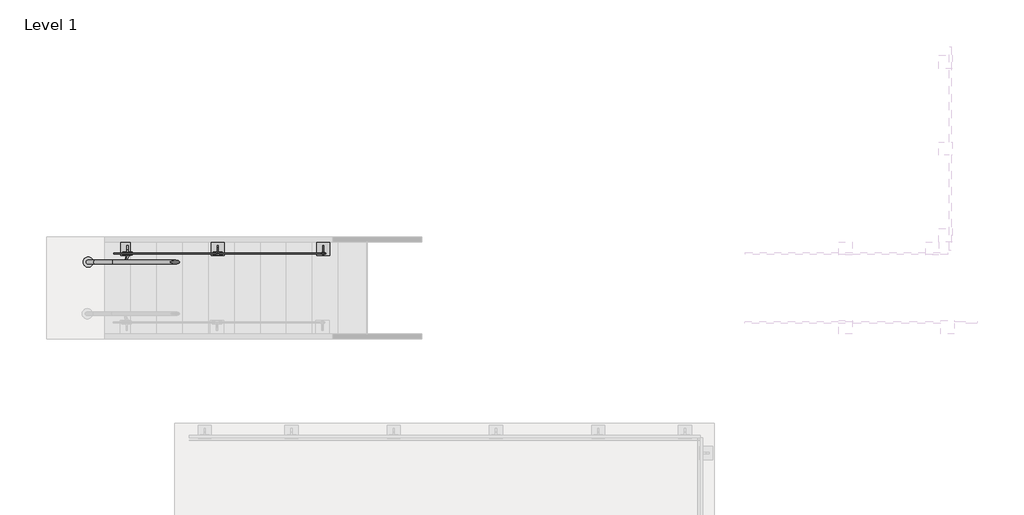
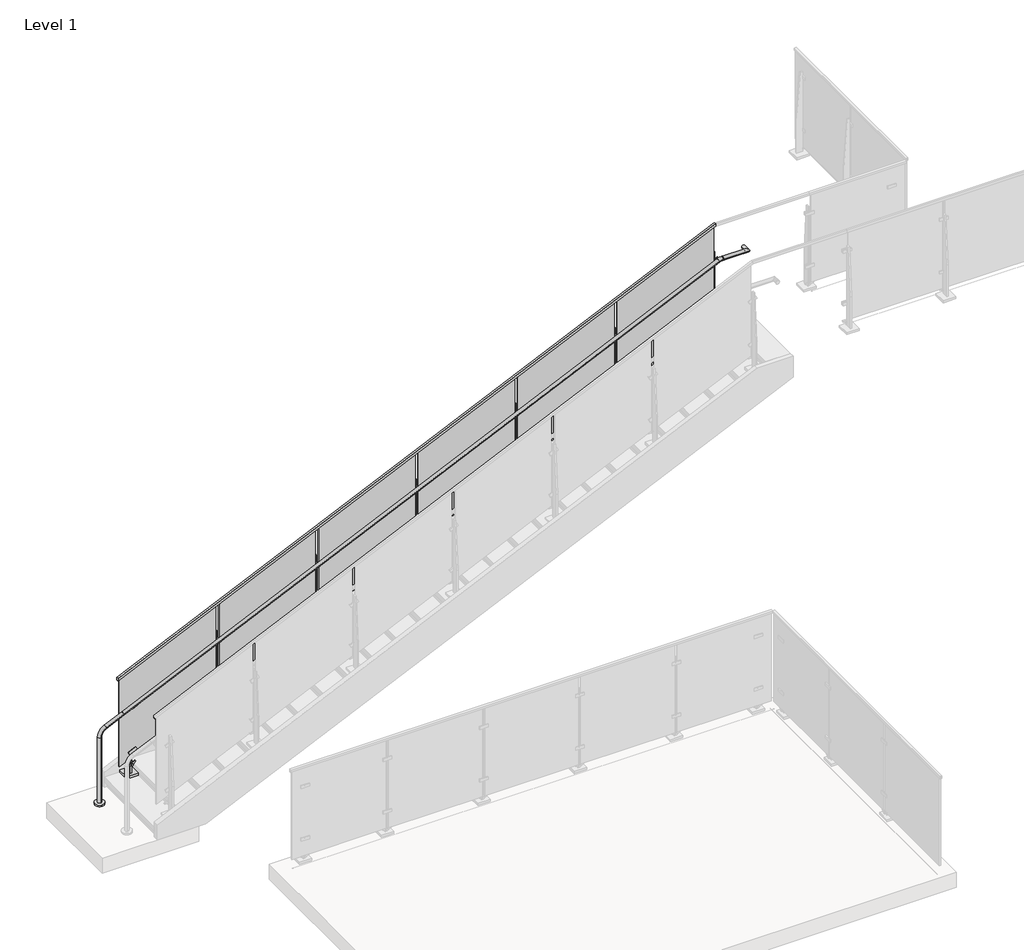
# One storey, part 11 of 37: 1 railing.
"""IFC4 building model written with IfcOpenShell, lengths in millimetres."""

from ifc_helpers import new_model, si_unit, point, frame, frame_2d, origin, place, context, project, spatial, polyline, circle_curve, ellipse_curve, trimmed, segment, composite_curve, outline, extrude, faceted_brep, element, save
from ifc_brep_helpers import plane_surface, cylinder_surface, revolved_surface, advanced_brep

model = new_model("IFC4")

# Units and contexts
model_context = context("Model", 3, world=origin())
ifc_project = project(units=[si_unit("LENGTHUNIT", "METRE", prefix="MILLI")], contexts=[model_context])

# Site, building, storey
site = spatial("IfcSite", under=ifc_project)
building = spatial("IfcBuilding", under=site)
storey = spatial("IfcBuildingStorey", under=building, Name="Level 1", Elevation=0.0)

# Railing
placement = place(None, origin())
element("IfcRailing", 1, ObjectType="VIVA-SOLO-Glass-Floor Mount-Stair_Left", at=placement, inside=storey, context=model_context, shape_type="SolidModel", body=[
    advanced_brep(
    [(-7324.9933273, 4134.4215519, 3782.4684417), (-7324.9933273, 4172.5215519, 3782.4684417), (-7051.9433273, 4134.4215519, 3782.4684417), (-7090.0433273, 4172.5215519, 3782.4684417), (-7051.9433273, 4216.9715519, 3782.4684417), (-7090.0433273, 4216.9715519, 3782.4684417)],
    [
        (0, 1, circle_curve(frame((-7324.9933273, 4153.4715519, 3782.4684417), z_axis=(-1.0, 0.0, 0.0), x_axis=(0.0, 1.0, 0.0)), 19.05)),
        (1, 0, circle_curve(frame((-7324.9933273, 4153.4715519, 3782.4684417), z_axis=(-1.0, 0.0, 0.0), x_axis=(0.0, 1.0, 0.0)), 19.05)),
        (0, 2),
        (2, 3, ellipse_curve(frame((-7070.9933273, 4153.4715519, 3782.4684417), z_axis=(-0.7071067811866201, -0.7071067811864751, 0.0), x_axis=(-0.7071067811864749, 0.7071067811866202, 0.0)), 26.9407684, 19.05)),
        (3, 1),
        (3, 2, ellipse_curve(frame((-7070.9933273, 4153.4715519, 3782.4684417), z_axis=(-0.7071067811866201, -0.7071067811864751, 0.0), x_axis=(-0.7071067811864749, 0.7071067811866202, 0.0)), 26.9407684, 19.05)),
        (4, 5, circle_curve(frame((-7070.9933273, 4216.9715519, 3782.4684417), z_axis=(0.0, 1.0, 0.0), x_axis=(-1.0, 0.0, 0.0)), 19.05)),
        (5, 4, circle_curve(frame((-7070.9933273, 4216.9715519, 3782.4684417), z_axis=(0.0, 1.0, 0.0), x_axis=(-1.0, 0.0, 0.0)), 19.05)),
        (2, 4),
        (5, 3),
    ],
    [
        plane_surface(frame((-7324.9933273, 4153.4715519, 3782.4684417), z_axis=(-1.0, 0.0, 0.0), x_axis=(0.0, 0.0, 1.0))),
        cylinder_surface(frame((-7324.9933273, 4153.4715519, 3782.4684417), z_axis=(-1.0, 0.0, 0.0), x_axis=(0.0, 1.0, 0.0)), 19.05),
        plane_surface(frame((-7070.9933273, 4216.9715519, 3782.4684417), z_axis=(0.0, 1.0, 0.0), x_axis=(0.0, 0.0, 1.0))),
        cylinder_surface(frame((-7070.9933273, 4153.4715519, 3782.4684417), z_axis=(0.0, -1.0, 0.0), x_axis=(-1.0, 0.0, 0.0)), 19.05),
    ],
    [
        (0, [[1, 2]]),
        (1, [[-1, 3, 4, 5]]),
        (1, [[-2, -5, 6, -3]]),
        (2, [[7, 8]]),
        (3, [[-4, 9, -8, 10]]),
        (3, [[-6, -10, -7, -9]]),
    ],
),
    extrude(outline(composite_curve([segment(trimmed(circle_curve(frame_2d((-13893.7175242, 4153.4715519)), 50.8), [point((-13893.7175242, 4204.2715519))], [point((-13893.7175242, 4102.6715519))], False, "CARTESIAN"), True, "CONTINUOUS"), segment(trimmed(circle_curve(frame_2d((-13893.7175242, 4153.4715519)), 50.8), [point((-13893.7175242, 4102.6715519))], [point((-13893.7175242, 4204.2715519))], False, "CARTESIAN"), True, "CONTINUOUS")], self_intersect=False)), frame((0.0, 0.0, -1.27), z_axis=(0.0, 0.0, 1.0), x_axis=(1.0, 0.0, 0.0)), (0.0, 0.0, 1.0), 19.05),
    advanced_brep(
    [(-13893.7175242, 4134.4215519, 17.78), (-13893.7175242, 4172.5215519, 17.78), (-13893.7175242, 4134.4215519, 742.2540055), (-13893.7175242, 4172.5215519, 742.2540055), (-13834.1731053, 4172.5215519, 834.7412376), (-13834.1731053, 4134.4215519, 834.7412376), (-13647.0721028, 4134.4215519, 919.8193744), (-13647.0721028, 4172.5215519, 919.8193744), (-7371.6701911, 4134.4215519, 3773.3556738), (-7371.6701911, 4172.5215519, 3773.3556738), (-7324.9933273, 4134.4215519, 3782.4684417), (-7324.9933273, 4172.5215519, 3782.4684417), (-7329.61461, 4172.5215519, 3782.4684417), (-7329.61461, 4134.4215519, 3782.4684417)],
    [
        (0, 1, circle_curve(frame((-13893.7175242, 4153.4715519, 17.78), z_axis=(0.0, 0.0, -1.0), x_axis=(0.0, 1.0, 0.0)), 19.05)),
        (1, 0, circle_curve(frame((-13893.7175242, 4153.4715519, 17.78), z_axis=(0.0, 0.0, -1.0), x_axis=(0.0, 1.0, 0.0)), 19.05)),
        (0, 2),
        (2, 3, circle_curve(frame((-13893.7175242, 4153.4715519, 742.2540055), z_axis=(0.0, 0.0, -1.0), x_axis=(0.0, 1.0, 0.0)), 19.05)),
        (3, 1),
        (3, 2, circle_curve(frame((-13893.7175242, 4153.4715519, 742.2540055), z_axis=(0.0, 0.0, -1.0), x_axis=(0.0, 1.0, 0.0)), 19.05)),
        (4, 3, circle_curve(frame((-13792.1175242, 4172.5215519, 742.2540055), z_axis=(0.0, -1.0, 0.0), x_axis=(-1.0, 0.0, 0.0)), 101.6)),
        (2, 5, circle_curve(frame((-13792.1175242, 4134.4215519, 742.2540055), z_axis=(0.0, 1.0, 0.0), x_axis=(-1.0, 0.0, 0.0)), 101.6)),
        (5, 4, circle_curve(frame((-13834.1731053, 4153.4715519, 834.7412376), z_axis=(-0.9103074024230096, 0.0, -0.4139328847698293), x_axis=(0.0, 1.0, 0.0)), 19.05)),
        (4, 5, circle_curve(frame((-13834.1731053, 4153.4715519, 834.7412376), z_axis=(-0.9103074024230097, 0.0, -0.41393288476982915), x_axis=(0.0, 1.0, 0.0)), 19.05)),
        (5, 6),
        (6, 7, circle_curve(frame((-13647.0721028, 4153.4715519, 919.8193744), z_axis=(-0.9103074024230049, 0.0, -0.4139328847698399), x_axis=(0.0, 1.0, 0.0)), 19.05)),
        (7, 4),
        (7, 6, circle_curve(frame((-13647.0721028, 4153.4715519, 919.8193744), z_axis=(-0.9103074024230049, 0.0, -0.4139328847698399), x_axis=(0.0, 1.0, 0.0)), 19.05)),
        (6, 8),
        (8, 9, circle_curve(frame((-7371.6701911, 4153.4715519, 3773.3556738), z_axis=(-0.9103074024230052, 0.0, -0.413932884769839), x_axis=(0.0, 1.0, 0.0)), 19.05)),
        (9, 7),
        (9, 8, circle_curve(frame((-7371.6701911, 4153.4715519, 3773.3556738), z_axis=(-0.9103074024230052, 0.0, -0.413932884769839), x_axis=(0.0, 1.0, 0.0)), 19.05)),
        (10, 11, circle_curve(frame((-7324.9933273, 4153.4715519, 3782.4684417), z_axis=(1.0, 0.0, 0.0), x_axis=(0.0, 1.0, 0.0)), 19.05)),
        (11, 10, circle_curve(frame((-7324.9933273, 4153.4715519, 3782.4684417), z_axis=(1.0, 0.0, 0.0), x_axis=(0.0, 1.0, 0.0)), 19.05)),
        (12, 13, circle_curve(frame((-7329.61461, 4153.4715519, 3782.4684417), z_axis=(1.0, 0.0, 0.0), x_axis=(0.0, 1.0, 0.0)), 19.05)),
        (13, 10),
        (11, 12),
        (13, 12, circle_curve(frame((-7329.61461, 4153.4715519, 3782.4684417), z_axis=(1.0, 0.0, 0.0), x_axis=(0.0, 1.0, 0.0)), 19.05)),
        (12, 9, circle_curve(frame((-7329.61461, 4172.5215519, 3680.8684417), z_axis=(0.0, -1.0, 0.0), x_axis=(-0.4139328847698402, 0.0, 0.9103074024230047)), 101.6)),
        (8, 13, circle_curve(frame((-7329.61461, 4134.4215519, 3680.8684417), z_axis=(0.0, 1.0, 0.0), x_axis=(-0.4139328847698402, 0.0, 0.9103074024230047)), 101.6)),
    ],
    [
        plane_surface(frame((-13912.7675242, 4115.3715519, 17.78), z_axis=(0.0, 0.0, -1.0), x_axis=(1.0, 0.0, 0.0))),
        cylinder_surface(frame((-13893.7175242, 4153.4715519, 17.78), z_axis=(0.0, 0.0, -1.0), x_axis=(0.0, 1.0, 0.0)), 19.05),
        revolved_surface(trimmed(ellipse_curve(frame((-13893.7175242, 4153.4715519, 742.2540055), z_axis=(0.0, 0.0, -1.0), x_axis=(0.0, 1.0, 0.0)), 19.05, 19.05), [point((-13893.7175242, 4134.4215519, 742.2540055))], [point((-13893.7175242, 4172.5215519, 742.2540055))], True, "CARTESIAN"), (-13792.1175242, 4153.4715519, 742.2540055), (0.0, 1.0, 0.0)),
        revolved_surface(trimmed(ellipse_curve(frame((-13893.7175242, 4153.4715519, 742.2540055), z_axis=(0.0, 0.0, -1.0), x_axis=(0.0, 1.0, 0.0)), 19.05, 19.05), [point((-13893.7175242, 4172.5215519, 742.2540055))], [point((-13893.7175242, 4134.4215519, 742.2540055))], True, "CARTESIAN"), (-13792.1175242, 4153.4715519, 742.2540055), (0.0, 1.0, 0.0)),
        cylinder_surface(frame((-13834.1731053, 4153.4715519, 834.7412376), z_axis=(-0.9103074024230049, 0.0, -0.4139328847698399), x_axis=(0.0, 1.0, 0.0)), 19.05),
        cylinder_surface(frame((-13647.0721028, 4153.4715519, 919.8193744), z_axis=(-0.9103074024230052, 0.0, -0.413932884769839), x_axis=(0.0, 1.0, 0.0)), 19.05),
        plane_surface(frame((-7324.9933273, 4153.4715519, 3801.5184417), z_axis=(1.0, 0.0, 0.0), x_axis=(0.0, 1.0, 0.0))),
        cylinder_surface(frame((-7329.61461, 4153.4715519, 3782.4684417), z_axis=(-1.0, 0.0, 0.0), x_axis=(0.0, 1.0, 0.0)), 19.05),
        revolved_surface(trimmed(ellipse_curve(frame((-7371.6701911, 4153.4715519, 3773.3556738), z_axis=(-0.9103074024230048, 0.0, -0.4139328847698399), x_axis=(0.0, 1.0, 0.0)), 19.05, 19.05), [point((-7371.6701911, 4134.4215519, 3773.3556738))], [point((-7371.6701911, 4172.5215519, 3773.3556738))], True, "CARTESIAN"), (-7329.61461, 4153.4715519, 3680.8684417), (0.0, 1.0, 0.0)),
        revolved_surface(trimmed(ellipse_curve(frame((-7371.6701911, 4153.4715519, 3773.3556738), z_axis=(-0.9103074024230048, 0.0, -0.4139328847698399), x_axis=(0.0, 1.0, 0.0)), 19.05, 19.05), [point((-7371.6701911, 4172.5215519, 3773.3556738))], [point((-7371.6701911, 4134.4215519, 3773.3556738))], True, "CARTESIAN"), (-7329.61461, 4153.4715519, 3680.8684417), (0.0, 1.0, 0.0)),
    ],
    [
        (0, [[1, 2]]),
        (1, [[-1, 3, 4, 5]]),
        (1, [[-2, -5, 6, -3]]),
        (2, [[7, -4, 8, 9]]),
        (3, [[-8, -6, -7, 10]]),
        (4, [[-9, 11, 12, 13]]),
        (4, [[-10, -13, 14, -11]]),
        (5, [[-12, 15, 16, 17]]),
        (5, [[-14, -17, 18, -15]]),
        (6, [[19, 20]]),
        (7, [[21, 22, -20, 23]]),
        (7, [[24, -23, -19, -22]]),
        (8, [[25, -16, 26, -21]]),
        (9, [[-26, -18, -25, -24]]),
    ],
),
    faceted_brep([(-13654.9575242, 4228.0840519, 1267.3607304), (-13654.9575242, 4250.3090519, 1267.3607304), (-13654.9575242, 4250.3090519, 1239.4580682), (-13654.9575242, 4245.5465519, 1239.4580682), (-13654.9575242, 4245.5465519, 1262.1289813), (-13654.9575242, 4232.8465519, 1262.1289813), (-13654.9575242, 4232.8465519, 1239.4580682), (-13654.9575242, 4228.0840519, 1239.4580682), (-7355.7575242, 4228.0840519, 4131.7184417), (-7355.7575242, 4228.0840519, 4103.8157794), (-7355.7575242, 4232.8465519, 4103.8157794), (-7355.7575242, 4232.8465519, 4126.4866925), (-7355.7575242, 4245.5465519, 4126.4866925), (-7355.7575242, 4245.5465519, 4103.8157794), (-7355.7575242, 4250.3090519, 4103.8157794), (-7355.7575242, 4250.3090519, 4131.7184417)], [[[0, 1, 2, 3, 4, 5, 6, 7]], [[8, 9, 10, 11, 12, 13, 14, 15]], [[1, 0, 8, 15]], [[2, 1, 15, 14]], [[3, 2, 14, 13]], [[4, 3, 13, 12]], [[5, 4, 12, 11]], [[6, 5, 11, 10]], [[7, 6, 10, 9]], [[0, 7, 9, 8]]]),
    extrude(outline(polyline([(4118.6845554, -7372.3078109), (3656.6913761, -8388.3078109), (2617.7111027, -8388.3078109), (3079.7042819, -7372.3078109), (4118.6845554, -7372.3078109)])), frame((0.0, 4232.8465519, 0.0), z_axis=(0.0, 1.0, 0.0), x_axis=(0.0, 0.0, 1.0)), (0.0, 0.0, 1.0), 12.7),
    extrude(outline(polyline([(-12.7, 0.0), (0.0, 0.0), (0.0, -3.175), (58.7375, -34.925), (61.9125, -34.925), (61.9125, -65.0875), (50.8, -65.0875), (-12.7, -3.175), (-12.7, 0.0)])), frame((-8433.2446543, 4161.4090519, 3269.2301241), z_axis=(0.8987940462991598, 0.0, 0.4383711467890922), x_axis=(0.0, 1.0, 0.0)), (0.0, 0.0, 1.0), 12.7),
    extrude(outline(polyline([(4255.0715519, 3324.1254898), (4280.4715519, 3324.1254898), (4318.5715519, 2790.7254898), (4318.5715519, 2461.8461538), (4255.0715519, 2461.8461538), (4255.0715519, 3324.1254898)])), frame((-8411.9741909, 0.0, 0.0), z_axis=(1.0, 0.0, 0.0), x_axis=(0.0, 1.0, 0.0)), (0.0, 0.0, 1.0), 12.7),
    extrude(outline(polyline([(0.0, 88.9), (9.525, 88.9), (9.525, 0.0), (0.0, 0.0), (0.0, 88.9)])), frame((-8358.7054776, 4245.5465519, 2757.8296699), z_axis=(-0.4383711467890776, 0.0, 0.8987940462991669), x_axis=(0.0, 1.0, 0.0)), (0.0, 0.0, 1.0), 31.75),
    extrude(outline(polyline([(0.0, 88.9), (9.525, 88.9), (9.525, 0.0), (0.0, 0.0), (0.0, 88.9)])), frame((-8358.7054776, 4223.3215519, 3232.285703), z_axis=(-0.4383711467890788, 0.0, 0.8987940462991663), x_axis=(0.0, 1.0, 0.0)), (0.0, 0.0, 1.0), 31.75),
    extrude(outline(polyline([(0.0, 88.9), (9.525, 88.9), (9.525, 0.0), (0.0, 0.0), (0.0, 88.9)])), frame((-8358.7054776, 4245.5465519, 3232.285703), z_axis=(-0.4383711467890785, 0.0, 0.8987940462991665), x_axis=(0.0, 1.0, 0.0)), (0.0, 0.0, 1.0), 31.75),
    extrude(outline(polyline([(0.0, 88.9), (9.525, 88.9), (9.525, 0.0), (0.0, 0.0), (0.0, 88.9)])), frame((-8358.7054776, 4223.3215519, 2757.8296699), z_axis=(-0.4383711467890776, 0.0, 0.8987940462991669), x_axis=(0.0, 1.0, 0.0)), (0.0, 0.0, 1.0), 31.75),
    extrude(outline(polyline([(2624.3409848, -8369.8540922), (2630.048327, -8372.637749), (2591.0771321, -8452.5405397), (2585.3697899, -8449.7568829), (2585.1586316, -8400.1987378), (2624.3409848, -8369.8540922)])), frame((0.0, 4232.8465519, 0.0), z_axis=(0.0, 1.0, 0.0), x_axis=(0.0, 0.0, 1.0)), (0.0, 0.0, 1.0), 12.7),
    extrude(outline(composite_curve([segment(trimmed(circle_curve(frame_2d((24.5007933, -6.6985913)), 25.4), [point((0.0, 0.0))], [point((6.4034747, 11.1240645))], False, "CARTESIAN"), True, "CONTINUOUS"), segment(polyline([(6.4034747, 11.1240645), (8.7901892, 9.7460942)]), True, "CONTINUOUS"), segment(trimmed(circle_curve(frame_2d((26.8875079, -8.0765616)), 25.4), [point((8.7901892, 9.7460942))], [point((2.8057896, 0.0))], True, "CARTESIAN"), True, "CONTINUOUS"), segment(polyline([(2.8057896, 0.0), (0.0, 0.0)]), True, "CONTINUOUS")], self_intersect=False)), frame((-8449.1657718, 4161.5082983, 3258.4169253), z_axis=(0.8987940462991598, 0.0, 0.4383711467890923), x_axis=(-0.3796405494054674, -0.5000000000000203, 0.7783784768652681)), (0.0, 0.0, 1.0), 50.8),
    extrude(outline(polyline([(-8339.7429409, 4220.9403019), (-8471.5054409, 4220.9403019), (-8471.5054409, 4352.7028019), (-8339.7429409, 4352.7028019), (-8339.7429409, 4220.9403019)])), frame((0.0, 0.0, 2461.8461538), z_axis=(0.0, 0.0, 1.0), x_axis=(1.0, 0.0, 0.0)), (0.0, 0.0, 1.0), 25.4),
    extrude(outline(composite_curve([segment(trimmed(circle_curve(frame_2d((2753.6743722, -8405.6160149)), 6.35), [point((2753.6743722, -8399.2660149))], [point((2753.6743722, -8411.9660149))], False, "CARTESIAN"), True, "CONTINUOUS"), segment(trimmed(circle_curve(frame_2d((2753.6743722, -8405.6160149)), 6.35), [point((2753.6743722, -8411.9660149))], [point((2753.6743722, -8399.2660149))], False, "CARTESIAN"), True, "CONTINUOUS")], self_intersect=False)), frame((0.0, 4232.8465519, 0.0), z_axis=(0.0, 1.0, 0.0), x_axis=(0.0, 0.0, 1.0)), (0.0, 0.0, 1.0), 12.7),
    extrude(outline(composite_curve([segment(trimmed(circle_curve(frame_2d((3227.0684611, -8405.6160149)), 6.35), [point((3227.0684611, -8399.2660149))], [point((3227.0684611, -8411.9660149))], False, "CARTESIAN"), True, "CONTINUOUS"), segment(trimmed(circle_curve(frame_2d((3227.0684611, -8405.6160149)), 6.35), [point((3227.0684611, -8411.9660149))], [point((3227.0684611, -8399.2660149))], False, "CARTESIAN"), True, "CONTINUOUS")], self_intersect=False)), frame((0.0, 4232.8465519, 0.0), z_axis=(0.0, 1.0, 0.0), x_axis=(0.0, 0.0, 1.0)), (0.0, 0.0, 1.0), 12.7),
    extrude(outline(composite_curve([segment(trimmed(circle_curve(frame_2d((2596.3552311, -8405.6160149)), 11.1125), [point((2596.3552311, -8394.5035149))], [point((2596.3552311, -8416.7285149))], False, "CARTESIAN"), True, "CONTINUOUS"), segment(trimmed(circle_curve(frame_2d((2596.3552311, -8405.6160149)), 11.1125), [point((2596.3552311, -8416.7285149))], [point((2596.3552311, -8394.5035149))], False, "CARTESIAN"), True, "CONTINUOUS")], self_intersect=False)), frame((0.0, 4229.6715519, 0.0), z_axis=(0.0, 1.0, 0.0), x_axis=(0.0, 0.0, 1.0)), (0.0, 0.0, 1.0), 25.4),
    extrude(outline(polyline([(3641.2916035, -8422.1744776), (3179.2984243, -9438.1744776), (2148.7880258, -9438.1744776), (2610.781205, -8422.1744776), (3641.2916035, -8422.1744776)])), frame((0.0, 4232.8465519, 0.0), z_axis=(0.0, 1.0, 0.0), x_axis=(0.0, 0.0, 1.0)), (0.0, 0.0, 1.0), 12.7),
    extrude(outline(polyline([(-12.7, 0.0), (0.0, 0.0), (0.0, -3.175), (58.7375, -34.925), (61.9125, -34.925), (61.9125, -65.0875), (50.8, -65.0875), (-12.7, -3.175), (-12.7, 0.0)])), frame((-9483.1113209, 4161.4090519, 2791.8371722), z_axis=(0.8987940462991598, 0.0, 0.4383711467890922), x_axis=(0.0, 1.0, 0.0)), (0.0, 0.0, 1.0), 12.7),
    extrude(outline(polyline([(4255.0715519, 2846.7325379), (4280.4715519, 2846.7325379), (4318.5715519, 2313.3325379), (4318.5715519, 1992.9230769), (4255.0715519, 1992.9230769), (4255.0715519, 2846.7325379)])), frame((-9461.8408575, 0.0, 0.0), z_axis=(1.0, 0.0, 0.0), x_axis=(0.0, 1.0, 0.0)), (0.0, 0.0, 1.0), 12.7),
    extrude(outline(polyline([(0.0, 88.9), (9.525, 88.9), (9.525, 0.0), (0.0, 0.0), (0.0, 88.9)])), frame((-9408.5721443, 4245.5465519, 2288.906593), z_axis=(-0.4383711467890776, 0.0, 0.8987940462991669), x_axis=(0.0, 1.0, 0.0)), (0.0, 0.0, 1.0), 31.75),
    extrude(outline(polyline([(0.0, 88.9), (9.525, 88.9), (9.525, 0.0), (0.0, 0.0), (0.0, 88.9)])), frame((-9408.5721443, 4223.3215519, 2754.8927512), z_axis=(-0.4383711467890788, 0.0, 0.8987940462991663), x_axis=(0.0, 1.0, 0.0)), (0.0, 0.0, 1.0), 31.75),
    extrude(outline(polyline([(0.0, 88.9), (9.525, 88.9), (9.525, 0.0), (0.0, 0.0), (0.0, 88.9)])), frame((-9408.5721443, 4245.5465519, 2754.8927512), z_axis=(-0.4383711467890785, 0.0, 0.8987940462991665), x_axis=(0.0, 1.0, 0.0)), (0.0, 0.0, 1.0), 31.75),
    extrude(outline(polyline([(0.0, 88.9), (9.525, 88.9), (9.525, 0.0), (0.0, 0.0), (0.0, 88.9)])), frame((-9408.5721443, 4223.3215519, 2288.906593), z_axis=(-0.4383711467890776, 0.0, 0.8987940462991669), x_axis=(0.0, 1.0, 0.0)), (0.0, 0.0, 1.0), 31.75),
    extrude(outline(polyline([(2155.4179079, -9419.7207588), (2161.1252501, -9422.5044156), (2122.1540552, -9502.4072063), (2116.446713, -9499.6235496), (2116.2355546, -9450.0654045), (2155.4179079, -9419.7207588)])), frame((0.0, 4232.8465519, 0.0), z_axis=(0.0, 1.0, 0.0), x_axis=(0.0, 0.0, 1.0)), (0.0, 0.0, 1.0), 12.7),
    extrude(outline(composite_curve([segment(trimmed(circle_curve(frame_2d((24.5007933, -6.6985913)), 25.4), [point((0.0, 0.0))], [point((6.4034748, 11.1240645))], False, "CARTESIAN"), True, "CONTINUOUS"), segment(polyline([(6.4034748, 11.1240645), (8.7901892, 9.7460942)]), True, "CONTINUOUS"), segment(trimmed(circle_curve(frame_2d((26.8875079, -8.0765616)), 25.4), [point((8.7901892, 9.7460942))], [point((2.8057896, 0.0))], True, "CARTESIAN"), True, "CONTINUOUS"), segment(polyline([(2.8057896, 0.0), (0.0, 0.0)]), True, "CONTINUOUS")], self_intersect=False)), frame((-9499.0324385, 4161.5082983, 2781.0239734), z_axis=(0.8987940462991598, 0.0, 0.4383711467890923), x_axis=(-0.3796405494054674, -0.5000000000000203, 0.7783784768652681)), (0.0, 0.0, 1.0), 50.8),
    extrude(outline(polyline([(-9389.6096075, 4220.9403019), (-9521.3721075, 4220.9403019), (-9521.3721075, 4352.7028019), (-9389.6096075, 4352.7028019), (-9389.6096075, 4220.9403019)])), frame((0.0, 0.0, 1992.9230769), z_axis=(0.0, 0.0, 1.0), x_axis=(1.0, 0.0, 0.0)), (0.0, 0.0, 1.0), 25.4),
    extrude(outline(composite_curve([segment(trimmed(circle_curve(frame_2d((2284.7512952, -9455.4826816)), 6.35), [point((2284.7512952, -9449.1326816))], [point((2284.7512952, -9461.8326816))], False, "CARTESIAN"), True, "CONTINUOUS"), segment(trimmed(circle_curve(frame_2d((2284.7512952, -9455.4826816)), 6.35), [point((2284.7512952, -9461.8326816))], [point((2284.7512952, -9449.1326816))], False, "CARTESIAN"), True, "CONTINUOUS")], self_intersect=False)), frame((0.0, 4232.8465519, 0.0), z_axis=(0.0, 1.0, 0.0), x_axis=(0.0, 0.0, 1.0)), (0.0, 0.0, 1.0), 12.7),
    extrude(outline(composite_curve([segment(trimmed(circle_curve(frame_2d((2749.6755092, -9455.4826816)), 6.35), [point((2749.6755092, -9449.1326816))], [point((2749.6755092, -9461.8326816))], False, "CARTESIAN"), True, "CONTINUOUS"), segment(trimmed(circle_curve(frame_2d((2749.6755092, -9455.4826816)), 6.35), [point((2749.6755092, -9461.8326816))], [point((2749.6755092, -9449.1326816))], False, "CARTESIAN"), True, "CONTINUOUS")], self_intersect=False)), frame((0.0, 4232.8465519, 0.0), z_axis=(0.0, 1.0, 0.0), x_axis=(0.0, 0.0, 1.0)), (0.0, 0.0, 1.0), 12.7),
    extrude(outline(composite_curve([segment(trimmed(circle_curve(frame_2d((2127.4321541, -9455.4826816)), 11.1125), [point((2127.4321541, -9444.3701816))], [point((2127.4321541, -9466.5951816))], False, "CARTESIAN"), True, "CONTINUOUS"), segment(trimmed(circle_curve(frame_2d((2127.4321541, -9455.4826816)), 11.1125), [point((2127.4321541, -9466.5951816))], [point((2127.4321541, -9444.3701816))], False, "CARTESIAN"), True, "CONTINUOUS")], self_intersect=False)), frame((0.0, 4229.6715519, 0.0), z_axis=(0.0, 1.0, 0.0), x_axis=(0.0, 0.0, 1.0)), (0.0, 0.0, 1.0), 25.4),
    extrude(outline(polyline([(3163.8986516, -9472.0411443), (2701.9054724, -10488.0411443), (1679.8649488, -10488.0411443), (2141.8581281, -9472.0411443), (3163.8986516, -9472.0411443)])), frame((0.0, 4232.8465519, 0.0), z_axis=(0.0, 1.0, 0.0), x_axis=(0.0, 0.0, 1.0)), (0.0, 0.0, 1.0), 12.7),
    extrude(outline(polyline([(-12.7, 0.0), (0.0, 0.0), (0.0, -3.175), (58.7375, -34.925), (61.9125, -34.925), (61.9125, -65.0875), (50.8, -65.0875), (-12.7, -3.175), (-12.7, 0.0)])), frame((-10532.9779876, 4161.4090519, 2314.4442203), z_axis=(0.8987940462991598, 0.0, 0.4383711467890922), x_axis=(0.0, 1.0, 0.0)), (0.0, 0.0, 1.0), 12.7),
    extrude(outline(polyline([(4255.0715519, 2369.3395861), (4280.4715519, 2369.3395861), (4318.5715519, 1835.9395861), (4318.5715519, 1524.0), (4255.0715519, 1524.0), (4255.0715519, 2369.3395861)])), frame((-10511.7075242, 0.0, 0.0), z_axis=(1.0, 0.0, 0.0), x_axis=(0.0, 1.0, 0.0)), (0.0, 0.0, 1.0), 12.7),
    extrude(outline(polyline([(0.0, 88.9), (9.525, 88.9), (9.525, 0.0), (0.0, 0.0), (0.0, 88.9)])), frame((-10458.4388109, 4245.5465519, 1819.9835161), z_axis=(-0.4383711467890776, 0.0, 0.8987940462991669), x_axis=(0.0, 1.0, 0.0)), (0.0, 0.0, 1.0), 31.75),
    extrude(outline(polyline([(0.0, 88.9), (9.525, 88.9), (9.525, 0.0), (0.0, 0.0), (0.0, 88.9)])), frame((-10458.4388109, 4223.3215519, 2277.4997993), z_axis=(-0.4383711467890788, 0.0, 0.8987940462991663), x_axis=(0.0, 1.0, 0.0)), (0.0, 0.0, 1.0), 31.75),
    extrude(outline(polyline([(0.0, 88.9), (9.525, 88.9), (9.525, 0.0), (0.0, 0.0), (0.0, 88.9)])), frame((-10458.4388109, 4245.5465519, 2277.4997993), z_axis=(-0.4383711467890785, 0.0, 0.8987940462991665), x_axis=(0.0, 1.0, 0.0)), (0.0, 0.0, 1.0), 31.75),
    extrude(outline(polyline([(0.0, 88.9), (9.525, 88.9), (9.525, 0.0), (0.0, 0.0), (0.0, 88.9)])), frame((-10458.4388109, 4223.3215519, 1819.9835161), z_axis=(-0.4383711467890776, 0.0, 0.8987940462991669), x_axis=(0.0, 1.0, 0.0)), (0.0, 0.0, 1.0), 31.75),
    extrude(outline(polyline([(1686.494831, -10469.5874255), (1692.2021732, -10472.3710823), (1653.2309782, -10552.273873), (1647.523636, -10549.4902162), (1647.3124777, -10499.9320712), (1686.494831, -10469.5874255)])), frame((0.0, 4232.8465519, 0.0), z_axis=(0.0, 1.0, 0.0), x_axis=(0.0, 0.0, 1.0)), (0.0, 0.0, 1.0), 12.7),
    extrude(outline(composite_curve([segment(trimmed(circle_curve(frame_2d((24.5007934, -6.6985914)), 25.4), [point((0.0, 0.0))], [point((6.4034748, 11.1240644))], False, "CARTESIAN"), True, "CONTINUOUS"), segment(polyline([(6.4034748, 11.1240644), (8.7901894, 9.7460941)]), True, "CONTINUOUS"), segment(trimmed(circle_curve(frame_2d((26.8875079, -8.0765616)), 25.4), [point((8.7901894, 9.7460941))], [point((2.8057897, 0.0))], True, "CARTESIAN"), True, "CONTINUOUS"), segment(polyline([(2.8057897, 0.0), (0.0, 0.0)]), True, "CONTINUOUS")], self_intersect=False)), frame((-10548.8991051, 4161.5082983, 2303.6310215), z_axis=(0.8987940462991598, 0.0, 0.4383711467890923), x_axis=(-0.37964054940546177, -0.5000000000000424, 0.7783784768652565)), (0.0, 0.0, 1.0), 50.8),
    extrude(outline(polyline([(-10439.4762742, 4220.9403019), (-10571.2387742, 4220.9403019), (-10571.2387742, 4352.7028019), (-10439.4762742, 4352.7028019), (-10439.4762742, 4220.9403019)])), frame((0.0, 0.0, 1524.0), z_axis=(0.0, 0.0, 1.0), x_axis=(1.0, 0.0, 0.0)), (0.0, 0.0, 1.0), 25.4),
    extrude(outline(composite_curve([segment(trimmed(circle_curve(frame_2d((1815.8282183, -10505.3493482)), 6.35), [point((1815.8282183, -10498.9993482))], [point((1815.8282183, -10511.6993482))], False, "CARTESIAN"), True, "CONTINUOUS"), segment(trimmed(circle_curve(frame_2d((1815.8282183, -10505.3493482)), 6.35), [point((1815.8282183, -10511.6993482))], [point((1815.8282183, -10498.9993482))], False, "CARTESIAN"), True, "CONTINUOUS")], self_intersect=False)), frame((0.0, 4232.8465519, 0.0), z_axis=(0.0, 1.0, 0.0), x_axis=(0.0, 0.0, 1.0)), (0.0, 0.0, 1.0), 12.7),
    extrude(outline(composite_curve([segment(trimmed(circle_curve(frame_2d((2272.2825573, -10505.3493482)), 6.35), [point((2272.2825573, -10498.9993482))], [point((2272.2825573, -10511.6993482))], False, "CARTESIAN"), True, "CONTINUOUS"), segment(trimmed(circle_curve(frame_2d((2272.2825573, -10505.3493482)), 6.35), [point((2272.2825573, -10511.6993482))], [point((2272.2825573, -10498.9993482))], False, "CARTESIAN"), True, "CONTINUOUS")], self_intersect=False)), frame((0.0, 4232.8465519, 0.0), z_axis=(0.0, 1.0, 0.0), x_axis=(0.0, 0.0, 1.0)), (0.0, 0.0, 1.0), 12.7),
    extrude(outline(composite_curve([segment(trimmed(circle_curve(frame_2d((1658.5090772, -10505.3493482)), 11.1125), [point((1658.5090772, -10494.2368482))], [point((1658.5090772, -10516.4618482))], False, "CARTESIAN"), True, "CONTINUOUS"), segment(trimmed(circle_curve(frame_2d((1658.5090772, -10505.3493482)), 11.1125), [point((1658.5090772, -10516.4618482))], [point((1658.5090772, -10494.2368482))], False, "CARTESIAN"), True, "CONTINUOUS")], self_intersect=False)), frame((0.0, 4229.6715519, 0.0), z_axis=(0.0, 1.0, 0.0), x_axis=(0.0, 0.0, 1.0)), (0.0, 0.0, 1.0), 25.4),
    extrude(outline(polyline([(2685.4932125, -10521.9078109), (2225.7647057, -11537.9078109), (1212.0742081, -11537.9078109), (1671.8027149, -10521.9078109), (2685.4932125, -10521.9078109)])), frame((0.0, 4232.8465519, 0.0), z_axis=(0.0, 1.0, 0.0), x_axis=(0.0, 0.0, 1.0)), (0.0, 0.0, 1.0), 12.7),
    extrude(outline(polyline([(-12.7, 0.0), (0.0, 0.0), (0.0, -3.175), (58.7375, -34.9249999), (61.9125, -34.9249999), (61.9125, -65.0875), (50.8, -65.0875), (-12.7, -3.175), (-12.7, 0.0)])), frame((-11582.8446543, 4161.4090519, 1837.0512684), z_axis=(0.8987940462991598, 0.0, 0.4383711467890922), x_axis=(0.0, 1.0, 0.0)), (0.0, 0.0, 1.0), 12.7),
    extrude(outline(polyline([(4255.0715519, 1891.9466342), (4280.4715519, 1891.9466342), (4318.5715519, 1358.5466342), (4318.5715519, 1055.0769231), (4255.0715519, 1055.0769231), (4255.0715519, 1891.9466342)])), frame((-11561.5741909, 0.0, 0.0), z_axis=(1.0, 0.0, 0.0), x_axis=(0.0, 1.0, 0.0)), (0.0, 0.0, 1.0), 12.7),
    extrude(outline(polyline([(0.0, 88.9), (9.525, 88.9), (9.525, 0.0), (0.0, 0.0), (0.0, 88.9)])), frame((-11508.3054776, 4245.5465519, 1351.0604391), z_axis=(-0.4383711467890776, 0.0, 0.8987940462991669), x_axis=(0.0, 1.0, 0.0)), (0.0, 0.0, 1.0), 31.75),
    extrude(outline(polyline([(0.0, 88.9), (9.525, 88.9), (9.525, 0.0), (0.0, 0.0), (0.0, 88.9)])), frame((-11508.3054776, 4223.3215519, 1800.1068474), z_axis=(-0.4383711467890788, 0.0, 0.8987940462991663), x_axis=(0.0, 1.0, 0.0)), (0.0, 0.0, 1.0), 31.75),
    extrude(outline(polyline([(0.0, 88.9), (9.525, 88.9), (9.525, 0.0), (0.0, 0.0), (0.0, 88.9)])), frame((-11508.3054776, 4245.5465519, 1800.1068474), z_axis=(-0.4383711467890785, 0.0, 0.8987940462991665), x_axis=(0.0, 1.0, 0.0)), (0.0, 0.0, 1.0), 31.75),
    extrude(outline(polyline([(0.0, 88.9), (9.525, 88.9), (9.525, 0.0), (0.0, 0.0), (0.0, 88.9)])), frame((-11508.3054776, 4223.3215519, 1351.0604391), z_axis=(-0.4383711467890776, 0.0, 0.8987940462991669), x_axis=(0.0, 1.0, 0.0)), (0.0, 0.0, 1.0), 31.75),
    extrude(outline(polyline([(1217.5717541, -11519.4540922), (1223.2790963, -11522.237749), (1184.3079013, -11602.1405397), (1178.6005591, -11599.3568829), (1178.3894008, -11549.7987378), (1217.5717541, -11519.4540922)])), frame((0.0, 4232.8465519, 0.0), z_axis=(0.0, 1.0, 0.0), x_axis=(0.0, 0.0, 1.0)), (0.0, 0.0, 1.0), 12.7),
    extrude(outline(composite_curve([segment(trimmed(circle_curve(frame_2d((24.5007933, -6.6985913)), 25.4), [point((0.0, 0.0))], [point((6.4034747, 11.1240645))], False, "CARTESIAN"), True, "CONTINUOUS"), segment(polyline([(6.4034747, 11.1240645), (8.7901892, 9.7460942)]), True, "CONTINUOUS"), segment(trimmed(circle_curve(frame_2d((26.8875078, -8.0765616)), 25.4), [point((8.7901892, 9.7460942))], [point((2.8057896, 0.0))], True, "CARTESIAN"), True, "CONTINUOUS"), segment(polyline([(2.8057896, 0.0), (0.0, 0.0)]), True, "CONTINUOUS")], self_intersect=False)), frame((-11598.7657718, 4161.5082983, 1826.2380697), z_axis=(0.8987940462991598, 0.0, 0.4383711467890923), x_axis=(-0.3796405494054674, -0.5000000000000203, 0.7783784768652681)), (0.0, 0.0, 1.0), 50.8),
    extrude(outline(polyline([(-11489.3429409, 4220.9403019), (-11621.1054409, 4220.9403019), (-11621.1054409, 4352.7028019), (-11489.3429409, 4352.7028019), (-11489.3429409, 4220.9403019)])), frame((0.0, 0.0, 1055.0769231), z_axis=(0.0, 0.0, 1.0), x_axis=(1.0, 0.0, 0.0)), (0.0, 0.0, 1.0), 25.4),
    extrude(outline(composite_curve([segment(trimmed(circle_curve(frame_2d((1346.9051414, -11555.2160149)), 6.35), [point((1346.9051414, -11548.8660149))], [point((1346.9051414, -11561.5660149))], False, "CARTESIAN"), True, "CONTINUOUS"), segment(trimmed(circle_curve(frame_2d((1346.9051414, -11555.2160149)), 6.35), [point((1346.9051414, -11561.5660149))], [point((1346.9051414, -11548.8660149))], False, "CARTESIAN"), True, "CONTINUOUS")], self_intersect=False)), frame((0.0, 4232.8465519, 0.0), z_axis=(0.0, 1.0, 0.0), x_axis=(0.0, 0.0, 1.0)), (0.0, 0.0, 1.0), 12.7),
    extrude(outline(composite_curve([segment(trimmed(circle_curve(frame_2d((1794.8896054, -11555.2160149)), 6.35), [point((1794.8896054, -11548.8660149))], [point((1794.8896054, -11561.5660149))], False, "CARTESIAN"), True, "CONTINUOUS"), segment(trimmed(circle_curve(frame_2d((1794.8896054, -11555.2160149)), 6.35), [point((1794.8896054, -11561.5660149))], [point((1794.8896054, -11548.8660149))], False, "CARTESIAN"), True, "CONTINUOUS")], self_intersect=False)), frame((0.0, 4232.8465519, 0.0), z_axis=(0.0, 1.0, 0.0), x_axis=(0.0, 0.0, 1.0)), (0.0, 0.0, 1.0), 12.7),
    extrude(outline(composite_curve([segment(trimmed(circle_curve(frame_2d((1189.5860003, -11555.2160149)), 11.1125), [point((1189.5860003, -11544.1035149))], [point((1189.5860003, -11566.3285149))], False, "CARTESIAN"), True, "CONTINUOUS"), segment(trimmed(circle_curve(frame_2d((1189.5860003, -11555.2160149)), 11.1125), [point((1189.5860003, -11566.3285149))], [point((1189.5860003, -11544.1035149))], False, "CARTESIAN"), True, "CONTINUOUS")], self_intersect=False)), frame((0.0, 4229.6715519, 0.0), z_axis=(0.0, 1.0, 0.0), x_axis=(0.0, 0.0, 1.0)), (0.0, 0.0, 1.0), 25.4),
    extrude(outline(polyline([(2209.1127479, -11571.7744776), (1747.1195686, -12587.7744776), (742.018795, -12587.7744776), (1204.0119742, -11571.7744776), (2209.1127479, -11571.7744776)])), frame((0.0, 4232.8465519, 0.0), z_axis=(0.0, 1.0, 0.0), x_axis=(0.0, 0.0, 1.0)), (0.0, 0.0, 1.0), 12.7),
    extrude(outline(polyline([(-12.7, 0.0), (0.0, 0.0), (0.0, -3.1749999), (58.7375, -34.9249999), (61.9125, -34.9249999), (61.9125, -65.0874999), (50.8, -65.0874999), (-12.7, -3.1749999), (-12.7, 0.0)])), frame((-12632.7113209, 4161.4090519, 1359.6583165), z_axis=(0.8987940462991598, 0.0, 0.4383711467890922), x_axis=(0.0, 1.0, 0.0)), (0.0, 0.0, 1.0), 12.7),
    extrude(outline(polyline([(4255.0715519, 1414.5536823), (4280.4715519, 1414.5536823), (4318.5715519, 881.1536823), (4318.5715519, 586.1538462), (4255.0715519, 586.1538462), (4255.0715519, 1414.5536823)])), frame((-12611.4408575, 0.0, 0.0), z_axis=(1.0, 0.0, 0.0), x_axis=(0.0, 1.0, 0.0)), (0.0, 0.0, 1.0), 12.7),
    extrude(outline(polyline([(0.0, 88.9), (9.525, 88.9), (9.525, 0.0), (0.0, 0.0), (0.0, 88.9)])), frame((-12558.1721443, 4245.5465519, 882.1373622), z_axis=(-0.4383711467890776, 0.0, 0.8987940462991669), x_axis=(0.0, 1.0, 0.0)), (0.0, 0.0, 1.0), 31.75),
    extrude(outline(polyline([(0.0, 88.9), (9.525, 88.9), (9.525, 0.0), (0.0, 0.0), (0.0, 88.9)])), frame((-12558.1721443, 4223.3215519, 1322.7138955), z_axis=(-0.4383711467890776, 0.0, 0.8987940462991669), x_axis=(0.0, 1.0, 0.0)), (0.0, 0.0, 1.0), 31.75),
    extrude(outline(polyline([(0.0, 88.9), (9.525, 88.9), (9.525, 0.0), (0.0, 0.0), (0.0, 88.9)])), frame((-12558.1721443, 4245.5465519, 1322.7138955), z_axis=(-0.4383711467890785, 0.0, 0.8987940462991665), x_axis=(0.0, 1.0, 0.0)), (0.0, 0.0, 1.0), 31.75),
    extrude(outline(polyline([(0.0, 88.9), (9.525, 88.9), (9.525, 0.0), (0.0, 0.0), (0.0, 88.9)])), frame((-12558.1721443, 4223.3215519, 882.1373622), z_axis=(-0.4383711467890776, 0.0, 0.8987940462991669), x_axis=(0.0, 1.0, 0.0)), (0.0, 0.0, 1.0), 31.75),
    extrude(outline(polyline([(748.6486771, -12569.3207588), (754.3560193, -12572.1044156), (715.3848244, -12652.0072063), (709.6774822, -12649.2235496), (709.4663239, -12599.6654045), (748.6486771, -12569.3207588)])), frame((0.0, 4232.8465519, 0.0), z_axis=(0.0, 1.0, 0.0), x_axis=(0.0, 0.0, 1.0)), (0.0, 0.0, 1.0), 12.7),
    extrude(outline(composite_curve([segment(trimmed(circle_curve(frame_2d((24.5007933, -6.6985913)), 25.4), [point((0.0, 0.0))], [point((6.4034747, 11.1240645))], False, "CARTESIAN"), True, "CONTINUOUS"), segment(polyline([(6.4034747, 11.1240645), (8.7901892, 9.7460942)]), True, "CONTINUOUS"), segment(trimmed(circle_curve(frame_2d((26.8875079, -8.0765616)), 25.4), [point((8.7901892, 9.7460942))], [point((2.8057896, 0.0))], True, "CARTESIAN"), True, "CONTINUOUS"), segment(polyline([(2.8057896, 0.0), (0.0, 0.0)]), True, "CONTINUOUS")], self_intersect=False)), frame((-12648.6324385, 4161.5082983, 1348.8451178), z_axis=(0.8987940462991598, 0.0, 0.4383711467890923), x_axis=(-0.3796405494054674, -0.5000000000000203, 0.7783784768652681)), (0.0, 0.0, 1.0), 50.8),
    extrude(outline(polyline([(-12539.2096075, 4220.9403019), (-12670.9721075, 4220.9403019), (-12670.9721075, 4352.7028019), (-12539.2096075, 4352.7028019), (-12539.2096075, 4220.9403019)])), frame((0.0, 0.0, 586.1538462), z_axis=(0.0, 0.0, 1.0), x_axis=(1.0, 0.0, 0.0)), (0.0, 0.0, 1.0), 25.4),
    extrude(outline(composite_curve([segment(trimmed(circle_curve(frame_2d((877.9820645, -12605.0826816)), 6.35), [point((877.9820645, -12598.7326816))], [point((877.9820645, -12611.4326816))], False, "CARTESIAN"), True, "CONTINUOUS"), segment(trimmed(circle_curve(frame_2d((877.9820645, -12605.0826816)), 6.35), [point((877.9820645, -12611.4326816))], [point((877.9820645, -12598.7326816))], False, "CARTESIAN"), True, "CONTINUOUS")], self_intersect=False)), frame((0.0, 4232.8465519, 0.0), z_axis=(0.0, 1.0, 0.0), x_axis=(0.0, 0.0, 1.0)), (0.0, 0.0, 1.0), 12.7),
    extrude(outline(composite_curve([segment(trimmed(circle_curve(frame_2d((1317.4966536, -12605.0826816)), 6.35), [point((1317.4966536, -12598.7326816))], [point((1317.4966536, -12611.4326816))], False, "CARTESIAN"), True, "CONTINUOUS"), segment(trimmed(circle_curve(frame_2d((1317.4966536, -12605.0826816)), 6.35), [point((1317.4966536, -12611.4326816))], [point((1317.4966536, -12598.7326816))], False, "CARTESIAN"), True, "CONTINUOUS")], self_intersect=False)), frame((0.0, 4232.8465519, 0.0), z_axis=(0.0, 1.0, 0.0), x_axis=(0.0, 0.0, 1.0)), (0.0, 0.0, 1.0), 12.7),
    extrude(outline(composite_curve([segment(trimmed(circle_curve(frame_2d((720.6629234, -12605.0826816)), 11.1125), [point((720.6629234, -12593.9701816))], [point((720.6629234, -12616.1951816))], False, "CARTESIAN"), True, "CONTINUOUS"), segment(trimmed(circle_curve(frame_2d((720.6629234, -12605.0826816)), 11.1125), [point((720.6629234, -12616.1951816))], [point((720.6629234, -12593.9701816))], False, "CARTESIAN"), True, "CONTINUOUS")], self_intersect=False)), frame((0.0, 4229.6715519, 0.0), z_axis=(0.0, 1.0, 0.0), x_axis=(0.0, 0.0, 1.0)), (0.0, 0.0, 1.0), 25.4),
    extrude(outline(polyline([(1731.719796, -12621.6411443), (1269.7266168, -13637.6411443), (273.0957181, -13637.6411443), (735.0888973, -12621.6411443), (1731.719796, -12621.6411443)])), frame((0.0, 4232.8465519, 0.0), z_axis=(0.0, 1.0, 0.0), x_axis=(0.0, 0.0, 1.0)), (0.0, 0.0, 1.0), 12.7),
    extrude(outline(polyline([(-12.7, 0.0), (0.0, 0.0), (0.0, -3.175), (58.7375, -34.9249999), (61.9125, -34.9249999), (61.9125, -65.0875), (50.8, -65.0875), (-12.7, -3.175), (-12.7, 0.0)])), frame((-7383.3779876, 4161.4090519, 3746.6230759), z_axis=(0.8987940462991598, 0.0, 0.4383711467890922), x_axis=(0.0, 1.0, 0.0)), (0.0, 0.0, 1.0), 12.7),
    extrude(outline(polyline([(4255.0715519, 3801.5184417), (4280.4715519, 3801.5184417), (4318.5715519, 3268.1184417), (4318.5715519, 2930.7692308), (4255.0715519, 2930.7692308), (4255.0715519, 3801.5184417)])), frame((-7362.1075242, 0.0, 0.0), z_axis=(1.0, 0.0, 0.0), x_axis=(0.0, 1.0, 0.0)), (0.0, 0.0, 1.0), 12.7),
    extrude(outline(polyline([(0.0, 88.9), (9.525, 88.9), (9.525, 0.0), (0.0, 0.0), (0.0, 88.9)])), frame((-7308.8388109, 4245.5465519, 3226.7527468), z_axis=(-0.4383711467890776, 0.0, 0.8987940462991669), x_axis=(0.0, 1.0, 0.0)), (0.0, 0.0, 1.0), 31.75),
    extrude(outline(polyline([(0.0, 88.9), (9.525, 88.9), (9.525, 0.0), (0.0, 0.0), (0.0, 88.9)])), frame((-7308.8388109, 4223.3215519, 3709.6786549), z_axis=(-0.43837114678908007, 0.0, 0.8987940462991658), x_axis=(0.0, 1.0, 0.0)), (0.0, 0.0, 1.0), 31.75),
    extrude(outline(polyline([(0.0, 88.9), (9.525, 88.9), (9.525, 0.0), (0.0, 0.0), (0.0, 88.9)])), frame((-7308.8388109, 4245.5465519, 3709.6786549), z_axis=(-0.4383711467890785, 0.0, 0.8987940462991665), x_axis=(0.0, 1.0, 0.0)), (0.0, 0.0, 1.0), 31.75),
    extrude(outline(polyline([(0.0, 88.9), (9.525, 88.9), (9.525, 0.0), (0.0, 0.0), (0.0, 88.9)])), frame((-7308.8388109, 4223.3215519, 3226.7527468), z_axis=(-0.4383711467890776, 0.0, 0.8987940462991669), x_axis=(0.0, 1.0, 0.0)), (0.0, 0.0, 1.0), 31.75),
    extrude(outline(polyline([(3093.2640618, -7319.9874255), (3098.971404, -7322.7710823), (3060.000209, -7402.673873), (3054.2928668, -7399.8902162), (3054.0817085, -7350.3320712), (3093.2640618, -7319.9874255)])), frame((0.0, 4232.8465519, 0.0), z_axis=(0.0, 1.0, 0.0), x_axis=(0.0, 0.0, 1.0)), (0.0, 0.0, 1.0), 12.7),
    extrude(outline(composite_curve([segment(trimmed(circle_curve(frame_2d((24.5007934, -6.6985914)), 25.4), [point((0.0, 0.0))], [point((6.4034747, 11.1240645))], False, "CARTESIAN"), True, "CONTINUOUS"), segment(polyline([(6.4034747, 11.1240645), (8.7901893, 9.7460942)]), True, "CONTINUOUS"), segment(trimmed(circle_curve(frame_2d((26.8875078, -8.0765616)), 25.4), [point((8.7901893, 9.7460942))], [point((2.8057896, 0.0))], True, "CARTESIAN"), True, "CONTINUOUS"), segment(polyline([(2.8057896, 0.0), (0.0, 0.0)]), True, "CONTINUOUS")], self_intersect=False)), frame((-7399.2991051, 4161.5082983, 3735.8098772), z_axis=(0.8987940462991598, 0.0, 0.4383711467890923), x_axis=(-0.37964054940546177, -0.5000000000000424, 0.7783784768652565)), (0.0, 0.0, 1.0), 50.8),
    extrude(outline(polyline([(-7289.8762742, 4220.9403019), (-7421.6387742, 4220.9403019), (-7421.6387742, 4352.7028019), (-7289.8762742, 4352.7028019), (-7289.8762742, 4220.9403019)])), frame((0.0, 0.0, 2930.7692308), z_axis=(0.0, 0.0, 1.0), x_axis=(1.0, 0.0, 0.0)), (0.0, 0.0, 1.0), 25.4),
    extrude(outline(composite_curve([segment(trimmed(circle_curve(frame_2d((3222.5974491, -7355.7493482)), 6.35), [point((3222.5974491, -7349.3993482))], [point((3222.5974491, -7362.0993482))], False, "CARTESIAN"), True, "CONTINUOUS"), segment(trimmed(circle_curve(frame_2d((3222.5974491, -7355.7493482)), 6.35), [point((3222.5974491, -7362.0993482))], [point((3222.5974491, -7349.3993482))], False, "CARTESIAN"), True, "CONTINUOUS")], self_intersect=False)), frame((0.0, 4232.8465519, 0.0), z_axis=(0.0, 1.0, 0.0), x_axis=(0.0, 0.0, 1.0)), (0.0, 0.0, 1.0), 12.7),
    extrude(outline(composite_curve([segment(trimmed(circle_curve(frame_2d((3704.4614129, -7355.7493482)), 6.35), [point((3704.4614129, -7349.3993482))], [point((3704.4614129, -7362.0993482))], False, "CARTESIAN"), True, "CONTINUOUS"), segment(trimmed(circle_curve(frame_2d((3704.4614129, -7355.7493482)), 6.35), [point((3704.4614129, -7362.0993482))], [point((3704.4614129, -7349.3993482))], False, "CARTESIAN"), True, "CONTINUOUS")], self_intersect=False)), frame((0.0, 4232.8465519, 0.0), z_axis=(0.0, 1.0, 0.0), x_axis=(0.0, 0.0, 1.0)), (0.0, 0.0, 1.0), 12.7),
    extrude(outline(composite_curve([segment(trimmed(circle_curve(frame_2d((3065.278308, -7355.7493482)), 11.1125), [point((3065.278308, -7344.6368482))], [point((3065.278308, -7366.8618482))], False, "CARTESIAN"), True, "CONTINUOUS"), segment(trimmed(circle_curve(frame_2d((3065.278308, -7355.7493482)), 11.1125), [point((3065.278308, -7366.8618482))], [point((3065.278308, -7344.6368482))], False, "CARTESIAN"), True, "CONTINUOUS")], self_intersect=False)), frame((0.0, 4229.6715519, 0.0), z_axis=(0.0, 1.0, 0.0), x_axis=(0.0, 0.0, 1.0)), (0.0, 0.0, 1.0), 25.4),
    extrude(outline(polyline([(-12.7, 0.0), (0.0, 0.0), (0.0, -3.175), (58.7375, -34.925), (61.9125, -34.925), (61.9125, -65.0875), (50.8, -65.0875), (-12.7, -3.175), (-12.7, 0.0)])), frame((-13530.1779876, 4161.4090519, 951.5643416), z_axis=(0.8987940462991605, 0.0, 0.43837114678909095), x_axis=(0.0, 1.0, 0.0)), (0.0, 0.0, 1.0), 12.7),
    extrude(outline(polyline([(4255.0715519, 1006.4597073), (4280.4715519, 1006.4597073), (4318.5715519, 473.0597073), (4318.5715519, 117.2307692), (4255.0715519, 117.2307692), (4255.0715519, 1006.4597073)])), frame((-13508.9075242, 0.0, 0.0), z_axis=(1.0, 0.0, 0.0), x_axis=(0.0, 1.0, 0.0)), (0.0, 0.0, 1.0), 12.7),
    extrude(outline(polyline([(0.0, 88.9), (9.525, 88.9), (9.525, 0.0), (0.0, 0.0), (0.0, 88.9)])), frame((-13455.6388109, 4245.5465519, 413.2142853), z_axis=(-0.4383711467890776, 0.0, 0.8987940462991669), x_axis=(0.0, 1.0, 0.0)), (0.0, 0.0, 1.0), 31.75),
    extrude(outline(polyline([(0.0, 88.9), (9.525, 88.9), (9.525, 0.0), (0.0, 0.0), (0.0, 88.9)])), frame((-13455.6388109, 4223.3215519, 914.6199206), z_axis=(-0.4383711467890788, 0.0, 0.8987940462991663), x_axis=(0.0, 1.0, 0.0)), (0.0, 0.0, 1.0), 31.75),
    extrude(outline(polyline([(0.0, 88.9), (9.525, 88.9), (9.525, 0.0), (0.0, 0.0), (0.0, 88.9)])), frame((-13455.6388109, 4245.5465519, 914.6199206), z_axis=(-0.4383711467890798, 0.0, 0.8987940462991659), x_axis=(0.0, 1.0, 0.0)), (0.0, 0.0, 1.0), 31.75),
    extrude(outline(polyline([(0.0, 88.9), (9.525, 88.9), (9.525, 0.0), (0.0, 0.0), (0.0, 88.9)])), frame((-13455.6388109, 4223.3215519, 413.2142853), z_axis=(-0.4383711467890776, 0.0, 0.8987940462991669), x_axis=(0.0, 1.0, 0.0)), (0.0, 0.0, 1.0), 31.75),
    extrude(outline(polyline([(279.7256002, -13466.7874255), (285.4329424, -13469.5710823), (246.4617475, -13549.473873), (240.7544053, -13546.6902162), (240.5432469, -13497.1320712), (279.7256002, -13466.7874255)])), frame((0.0, 4232.8465519, 0.0), z_axis=(0.0, 1.0, 0.0), x_axis=(0.0, 0.0, 1.0)), (0.0, 0.0, 1.0), 12.7),
    extrude(outline(composite_curve([segment(trimmed(circle_curve(frame_2d((24.5007934, -6.6985914)), 25.4), [point((0.0, 0.0))], [point((6.4034748, 11.1240644))], False, "CARTESIAN"), True, "CONTINUOUS"), segment(polyline([(6.4034748, 11.1240644), (8.7901893, 9.7460942)]), True, "CONTINUOUS"), segment(trimmed(circle_curve(frame_2d((26.8875079, -8.0765616)), 25.4), [point((8.7901893, 9.7460942))], [point((2.8057897, 0.0))], True, "CARTESIAN"), True, "CONTINUOUS"), segment(polyline([(2.8057897, 0.0), (0.0, 0.0)]), True, "CONTINUOUS")], self_intersect=False)), frame((-13546.0991051, 4161.5082983, 940.7511428), z_axis=(0.8987940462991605, 0.0, 0.43837114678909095), x_axis=(-0.3796405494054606, -0.5000000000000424, 0.7783784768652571)), (0.0, 0.0, 1.0), 50.8),
    extrude(outline(polyline([(-13436.6762742, 4220.9403019), (-13568.4387742, 4220.9403019), (-13568.4387742, 4352.7028019), (-13436.6762742, 4352.7028019), (-13436.6762742, 4220.9403019)])), frame((0.0, 0.0, 117.2307692), z_axis=(0.0, 0.0, 1.0), x_axis=(1.0, 0.0, 0.0)), (0.0, 0.0, 1.0), 25.4),
    extrude(outline(composite_curve([segment(trimmed(circle_curve(frame_2d((409.0589875, -13502.5493482)), 6.35), [point((409.0589875, -13496.1993482))], [point((409.0589875, -13508.8993482))], False, "CARTESIAN"), True, "CONTINUOUS"), segment(trimmed(circle_curve(frame_2d((409.0589875, -13502.5493482)), 6.35), [point((409.0589875, -13508.8993482))], [point((409.0589875, -13496.1993482))], False, "CARTESIAN"), True, "CONTINUOUS")], self_intersect=False)), frame((0.0, 4232.8465519, 0.0), z_axis=(0.0, 1.0, 0.0), x_axis=(0.0, 0.0, 1.0)), (0.0, 0.0, 1.0), 12.7),
    extrude(outline(composite_curve([segment(trimmed(circle_curve(frame_2d((909.4026786, -13502.5493482)), 6.35), [point((909.4026786, -13496.1993482))], [point((909.4026786, -13508.8993482))], False, "CARTESIAN"), True, "CONTINUOUS"), segment(trimmed(circle_curve(frame_2d((909.4026786, -13502.5493482)), 6.35), [point((909.4026786, -13508.8993482))], [point((909.4026786, -13496.1993482))], False, "CARTESIAN"), True, "CONTINUOUS")], self_intersect=False)), frame((0.0, 4232.8465519, 0.0), z_axis=(0.0, 1.0, 0.0), x_axis=(0.0, 0.0, 1.0)), (0.0, 0.0, 1.0), 12.7),
    extrude(outline(composite_curve([segment(trimmed(circle_curve(frame_2d((251.7398464, -13502.5493482)), 11.1125), [point((251.7398464, -13491.4368482))], [point((251.7398464, -13513.6618482))], False, "CARTESIAN"), True, "CONTINUOUS"), segment(trimmed(circle_curve(frame_2d((251.7398464, -13502.5493482)), 11.1125), [point((251.7398464, -13513.6618482))], [point((251.7398464, -13491.4368482))], False, "CARTESIAN"), True, "CONTINUOUS")], self_intersect=False)), frame((0.0, 4229.6715519, 0.0), z_axis=(0.0, 1.0, 0.0), x_axis=(0.0, 0.0, 1.0)), (0.0, 0.0, 1.0), 25.4),
])

save(model, "model.ifc")
